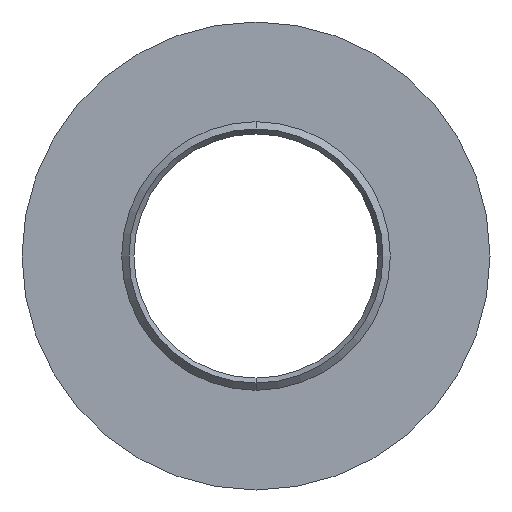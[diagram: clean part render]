
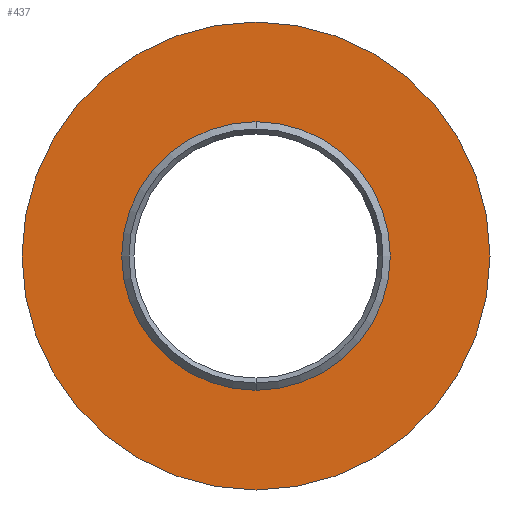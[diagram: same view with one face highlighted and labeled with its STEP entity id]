
A CAD part, front view. The second image highlights one B-rep face of the part: STEP entity #437.
In plain terms, the highlighted planar face has unit normal (0, -1, 0).
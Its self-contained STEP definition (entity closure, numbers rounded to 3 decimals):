
#6 = CIRCLE ( 'NONE', #315, 11.5 ) ;
#15 = DIRECTION ( 'NONE',  ( 0., 1., 0. ) ) ;
#16 = ORIENTED_EDGE ( 'NONE', *, *, #261, .T. ) ;
#17 = DIRECTION ( 'NONE',  ( 0., 0., -1. ) ) ;
#27 = EDGE_CURVE ( 'NONE', #103, #190, #6, .T. ) ;
#30 = DIRECTION ( 'NONE',  ( 0., 0., 1. ) ) ;
#40 = PLANE ( 'NONE',  #464 ) ;
#45 = CIRCLE ( 'NONE', #48, 6.6 ) ;
#48 = AXIS2_PLACEMENT_3D ( 'NONE', #294, #257, #30 ) ;
#61 = EDGE_CURVE ( 'NONE', #77, #187, #98, .T. ) ;
#63 = CARTESIAN_POINT ( 'NONE',  ( 0., -6., 0. ) ) ;
#77 = VERTEX_POINT ( 'NONE', #433 ) ;
#89 = CIRCLE ( 'NONE', #148, 11.5 ) ;
#98 = CIRCLE ( 'NONE', #303, 6.6 ) ;
#103 = VERTEX_POINT ( 'NONE', #169 ) ;
#129 = EDGE_LOOP ( 'NONE', ( #16, #375 ) ) ;
#137 = CARTESIAN_POINT ( 'NONE',  ( 0., -6., 6.6 ) ) ;
#138 = EDGE_LOOP ( 'NONE', ( #343, #372 ) ) ;
#148 = AXIS2_PLACEMENT_3D ( 'NONE', #405, #183, #444 ) ;
#169 = CARTESIAN_POINT ( 'NONE',  ( 0., -6., 11.5 ) ) ;
#178 = CARTESIAN_POINT ( 'NONE',  ( 0., -6., -11.5 ) ) ;
#183 = DIRECTION ( 'NONE',  ( 0., -1., 0. ) ) ;
#187 = VERTEX_POINT ( 'NONE', #137 ) ;
#190 = VERTEX_POINT ( 'NONE', #178 ) ;
#244 = DIRECTION ( 'NONE',  ( 0., 1., 0. ) ) ;
#257 = DIRECTION ( 'NONE',  ( 0., 1., 0. ) ) ;
#261 = EDGE_CURVE ( 'NONE', #190, #103, #89, .T. ) ;
#277 = EDGE_CURVE ( 'NONE', #187, #77, #45, .T. ) ;
#282 = DIRECTION ( 'NONE',  ( 0., 0., 1. ) ) ;
#287 = FACE_BOUND ( 'NONE', #138, .T. ) ;
#294 = CARTESIAN_POINT ( 'NONE',  ( 0., -6., 0. ) ) ;
#303 = AXIS2_PLACEMENT_3D ( 'NONE', #321, #15, #282 ) ;
#315 = AXIS2_PLACEMENT_3D ( 'NONE', #63, #323, #17 ) ;
#317 = FACE_OUTER_BOUND ( 'NONE', #129, .T. ) ;
#321 = CARTESIAN_POINT ( 'NONE',  ( 0., -6., 0. ) ) ;
#323 = DIRECTION ( 'NONE',  ( 0., -1., 0. ) ) ;
#343 = ORIENTED_EDGE ( 'NONE', *, *, #277, .T. ) ;
#372 = ORIENTED_EDGE ( 'NONE', *, *, #61, .T. ) ;
#373 = CARTESIAN_POINT ( 'NONE',  ( -6.1, -6., 0. ) ) ;
#375 = ORIENTED_EDGE ( 'NONE', *, *, #27, .T. ) ;
#376 = DIRECTION ( 'NONE',  ( 0., 0., 1. ) ) ;
#405 = CARTESIAN_POINT ( 'NONE',  ( 0., -6., 0. ) ) ;
#433 = CARTESIAN_POINT ( 'NONE',  ( 0., -6., -6.6 ) ) ;
#437 = ADVANCED_FACE ( 'NONE', ( #287, #317 ), #40, .F. ) ;
#444 = DIRECTION ( 'NONE',  ( 0., 0., -1. ) ) ;
#464 = AXIS2_PLACEMENT_3D ( 'NONE', #373, #244, #376 ) ;
